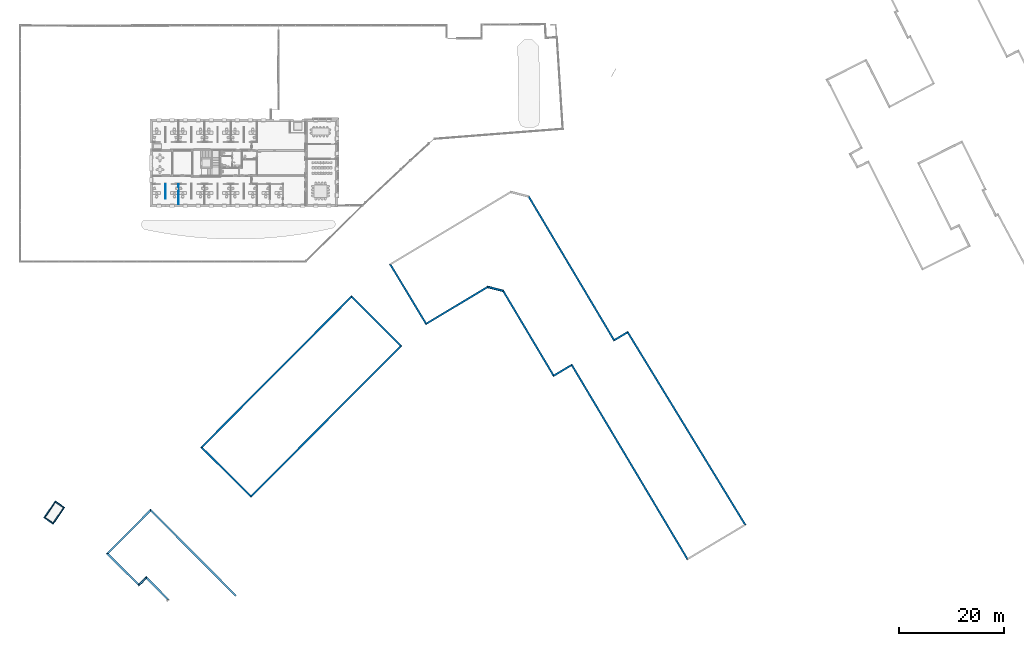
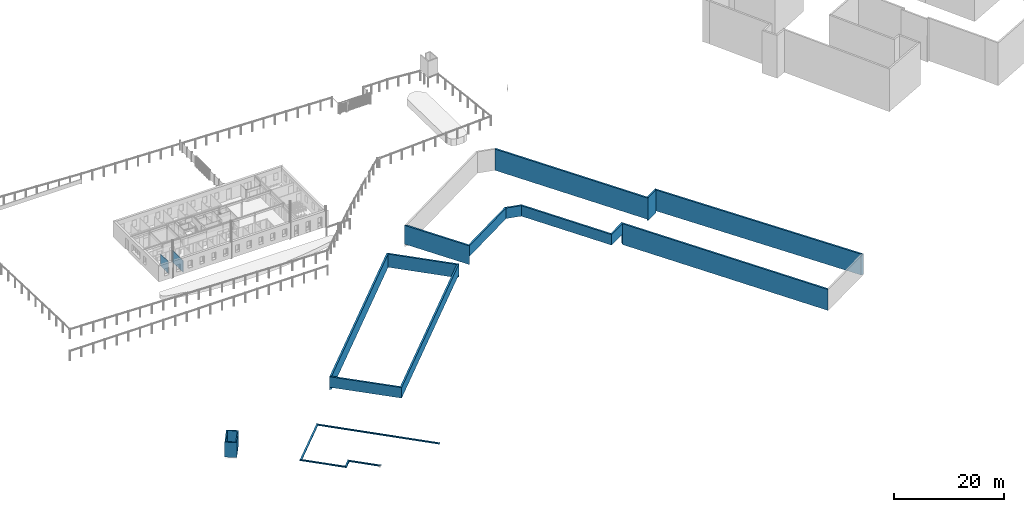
# One storey, part 12 of 91: 24 walls.
"""IFC2X3 building model written with IfcOpenShell, lengths in metres."""

from ifc_helpers import new_model, entity, si_unit, converted_unit, derived_unit, money_unit, direction, frame, origin_with_axes, place, context, subcontext, project, spatial, polyline, outline, extrude, material, layer, layer_set, layer_usage, type_object, element, save


model = new_model("IFC2X3")

# Units and contexts
model_context = context("Model", 3, precision=1e-05, world=origin_with_axes(), true_north=direction((0.0, 1.0)))
body_context = subcontext(model_context, "Body", "Model", "MODEL_VIEW")
ifc_project = project(units=[si_unit("LENGTHUNIT", "METRE"), si_unit("AREAUNIT", "SQUARE_METRE"), si_unit("VOLUMEUNIT", "CUBIC_METRE"), converted_unit("PLANEANGLEUNIT", "DEGREE", entity("IfcPlaneAngleMeasure", 0.0174532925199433), si_unit("PLANEANGLEUNIT", "RADIAN"), dimensions=[0, 0, 0, 0, 0, 0, 0]), money_unit("EUR"), converted_unit("TIMEUNIT", "Year", entity("IfcTimeMeasure", 31557600.0), si_unit("TIMEUNIT", "SECOND"), dimensions=[0, 0, 1, 0, 0, 0, 0]), si_unit("MASSUNIT", "GRAM", prefix="KILO"), si_unit("THERMODYNAMICTEMPERATUREUNIT", "DEGREE_CELSIUS"), si_unit("LUMINOUSINTENSITYUNIT", "LUMEN"), si_unit("ENERGYUNIT", "JOULE", prefix="MEGA"), derived_unit("THERMALCONDUCTANCEUNIT", [(si_unit("POWERUNIT", "WATT"), 1), (si_unit("LENGTHUNIT", "METRE"), -1), (si_unit("THERMODYNAMICTEMPERATUREUNIT", "KELVIN"), -1)]), derived_unit("SPECIFICHEATCAPACITYUNIT", [(si_unit("ENERGYUNIT", "JOULE"), 1), (si_unit("MASSUNIT", "GRAM", prefix="KILO"), -1), (si_unit("THERMODYNAMICTEMPERATUREUNIT", "KELVIN"), -1)]), derived_unit("MASSDENSITYUNIT", [(si_unit("MASSUNIT", "GRAM", prefix="KILO"), 1), (si_unit("VOLUMEUNIT", "CUBIC_METRE"), -1)])], contexts=[model_context])

# Site, building, storey
site_placement = place(None, origin_with_axes())
site = spatial("IfcSite", under=ifc_project, at=site_placement, Name="Site", CompositionType="ELEMENT")
building_placement = place(site_placement, origin_with_axes())
building = spatial("IfcBuilding", under=site, at=building_placement, Name="Bâtiment", CompositionType="ELEMENT")
storey_placement = place(building_placement, origin_with_axes())
storey = spatial("IfcBuildingStorey", under=building, at=storey_placement, Name="RDC", CompositionType="ELEMENT", Elevation=0.0)

# Walls
ifc_material_1 = material(Name="*GENERIQUE - ENDUIT EXT")
ifc_layer_1 = layer(ifc_material_1, 0.02, ventilated="UNKNOWN")
ifc_material_2 = material(Name="*GENERIQUE - MAÇONNERIE")
ifc_layer_2 = layer(ifc_material_2, 0.2, ventilated="UNKNOWN")
ifc_material_3 = material(Name="*GENERIQUE - ISOLATION INT")
ifc_layer_3 = layer(ifc_material_3, 0.12, ventilated="UNKNOWN")
ifc_material_4 = material(Name="*PLAQUE DE PLATRE - DOUBLAGE")
ifc_layer_4 = layer(ifc_material_4, 0.013, ventilated="UNKNOWN")
ifc_layer_set_1 = layer_set([ifc_layer_1, ifc_layer_2, ifc_layer_3, ifc_layer_4], Name="*Mur MITI 36")
ifc_layer_usage_1 = layer_usage(ifc_layer_set_1, "AXIS2", "POSITIVE", -0.02)
wall_type_1 = type_object("IfcWallType", Name="*Mur MITI 36 353", PredefinedType="NOTDEFINED")
wall_1_placement = place(storey_placement, frame((23.89065227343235, -98.08815635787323, 3.204798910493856), z_axis=(0.0, 0.0, 1.0), x_axis=(0.7056807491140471, -0.708529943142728, 0.0)))
element("IfcWallStandardCase", 1, at=wall_1_placement, inside=storey, type_object=wall_type_1, material=ifc_layer_usage_1, Name="MC_AGL_Ext-062", context=body_context, shape_type="SweptSolid", body=[
    extrude(outline(polyline([(0.01988009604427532, -0.02000000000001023), (5.568738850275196, -0.01999999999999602), (5.921419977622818, 0.3330000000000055), (-0.3310035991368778, 0.3330000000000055), (0.01988009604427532, -0.02000000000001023)])), origin_with_axes(), (0.0, 0.0, 1.0), 0.1352010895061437),
])
ifc_layer_usage_2 = layer_usage(ifc_layer_set_1, "AXIS2", "POSITIVE", -0.02)
wall_2_placement = place(storey_placement, frame((16.26791264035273, -93.30924011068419, 3.204798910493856), z_axis=(0.0, 0.0, 1.0), x_axis=(0.7077792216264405, -0.7064337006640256, 0.0)))
element("IfcWallStandardCase", 2, at=wall_2_placement, inside=storey, type_object=wall_type_1, material=ifc_layer_usage_2, Name="MC_AGL_Ext-062", context=body_context, shape_type="SweptSolid", body=[
    extrude(outline(polyline([(-0.01998600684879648, -0.02000000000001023), (8.77304347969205, -0.02000000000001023), (8.423199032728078, 0.3329999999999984), (0.3327670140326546, 0.3329999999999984), (-0.01998600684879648, -0.02000000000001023)])), origin_with_axes(), (0.0, 0.0, 1.0), 0.1352010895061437),
])
ifc_layer_usage_3 = layer_usage(ifc_layer_set_1, "AXIS2", "POSITIVE", -0.02)
wall_3_placement = place(storey_placement, frame((22.46326148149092, -99.49281130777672, 3.204798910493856), z_axis=(0.0, 0.0, 1.0), x_axis=(0.712760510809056, 0.7014074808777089, 0.0)))
element("IfcWallStandardCase", 3, at=wall_3_placement, inside=storey, type_object=wall_type_1, material=ifc_layer_usage_3, Name="MC_AGL_Ext-062", context=body_context, shape_type="SweptSolid", body=[
    extrude(outline(polyline([(-0.01982121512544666, -0.01999999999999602), (1.982743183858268, -0.01999999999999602), (2.333626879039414, 0.3329999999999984), (0.3300232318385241, 0.3329999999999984), (-0.01982121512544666, -0.01999999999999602)])), origin_with_axes(), (0.0, 0.0, 1.0), 0.1352010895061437),
])
ifc_layer_usage_4 = layer_usage(ifc_layer_set_1, "AXIS2", "POSITIVE", -0.02)
wall_4_placement = place(storey_placement, frame((41.05124828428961, -101.2420816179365, 3.204798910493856), z_axis=(0.0, 0.0, 1.0), x_axis=(-0.7060929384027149, 0.7081191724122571, 0.0)))
element("IfcWallStandardCase", 4, at=wall_4_placement, inside=storey, type_object=wall_type_1, material=ifc_layer_usage_4, Name="MC_AGL_Ext-064", context=body_context, shape_type="SweptSolid", body=[
    extrude(outline(polyline([(0.0, -0.01999999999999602), (23.17364681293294, -0.01999999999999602), (22.81955644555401, 0.3329999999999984), (0.0, 0.3329999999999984), (0.0, -0.01999999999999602)])), origin_with_axes(), (0.0, 0.0, 1.0), 0.1352010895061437),
])
ifc_layer_usage_5 = layer_usage(ifc_layer_set_1, "AXIS2", "POSITIVE", -0.02)
wall_5_placement = place(storey_placement, frame((70.0213957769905, -38.30799339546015, -0.8221623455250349), z_axis=(0.0, 0.0, 1.0), x_axis=(0.5158196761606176, -0.8566971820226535, 0.0)))
element("IfcWallStandardCase", 5, at=wall_5_placement, inside=storey, type_object=wall_type_1, material=ifc_layer_usage_5, Name="MC_AGL_Ext-045", context=body_context, shape_type="SweptSolid", body=[
    extrude(outline(polyline([(-0.02002691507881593, -0.02000000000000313), (13.52509505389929, -0.01999999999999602), (13.17290351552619, 0.3330000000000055), (0.3334481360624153, 0.3330000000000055), (-0.02002691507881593, -0.02000000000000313)])), origin_with_axes(), (0.0, 0.0, 1.0), 4.162162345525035),
])
ifc_layer_usage_6 = layer_usage(ifc_layer_set_1, "AXIS2", "POSITIVE", -0.02)
wall_6_placement = place(storey_placement, frame((76.98761316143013, -49.87780951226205, 1.0), z_axis=(0.0, 0.0, 1.0), x_axis=(0.8578776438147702, 0.513854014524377, 0.0)))
element("IfcWallStandardCase", 6, at=wall_6_placement, inside=storey, type_object=wall_type_1, material=ifc_layer_usage_6, Name="MC_AGL_Ext-046", context=body_context, shape_type="SweptSolid", body=[
    extrude(outline(polyline([(-0.0199541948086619, -0.02000000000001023), (13.74070327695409, -0.01999999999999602), (13.88831691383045, 0.3329999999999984), (0.332237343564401, 0.3329999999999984), (-0.0199541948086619, -0.02000000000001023)])), origin_with_axes(), (0.0, 0.0, 1.0), 2.34),
])
ifc_layer_usage_7 = layer_usage(ifc_layer_set_1, "AXIS2", "POSITIVE", -0.02)
wall_7_placement = place(storey_placement, frame((88.78263006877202, -42.81279641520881, 1.0), z_axis=(0.0, 0.0, 1.0), x_axis=(0.9682984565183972, -0.24979611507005, 0.0)))
element("IfcWallStandardCase", 7, at=wall_7_placement, inside=storey, type_object=wall_type_1, material=ifc_layer_usage_7, Name="MC_AGL_Ext-047", context=body_context, shape_type="SweptSolid", body=[
    extrude(outline(polyline([(0.00836337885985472, -0.01999999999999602), (2.876154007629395, -0.01999999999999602), (3.021637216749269, 0.3329999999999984), (-0.1392502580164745, 0.3329999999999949), (0.00836337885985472, -0.01999999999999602)])), origin_with_axes(), (0.0, 0.0, 1.0), 2.34),
])
ifc_layer_usage_8 = layer_usage(ifc_layer_set_1, "AXIS2", "POSITIVE", -0.02)
wall_8_placement = place(storey_placement, frame((91.57558692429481, -43.53330750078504, 1.0), z_axis=(0.0, 0.0, 1.0), x_axis=(0.5111150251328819, -0.8595123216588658, 0.0)))
element("IfcWallStandardCase", 8, at=wall_8_placement, inside=storey, type_object=wall_type_1, material=ifc_layer_usage_8, Name="MC_AGL_Ext-048", context=body_context, shape_type="SweptSolid", body=[
    extrude(outline(polyline([(0.008242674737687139, -0.01999999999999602), (18.87495966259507, -0.01999999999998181), (18.5217841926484, 0.3329999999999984), (-0.1372405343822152, 0.3329999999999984), (0.008242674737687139, -0.01999999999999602)])), origin_with_axes(), (0.0, 0.0, 1.0), 2.34),
])
ifc_layer_usage_9 = layer_usage(ifc_layer_set_1, "AXIS2", "POSITIVE", -0.02)
wall_9_placement = place(storey_placement, frame((101.2126350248, -59.73936911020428, 1.0), z_axis=(0.0, 0.0, 1.0), x_axis=(0.8592582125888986, 0.5115421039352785, 0.0)))
element("IfcWallStandardCase", 9, at=wall_9_placement, inside=storey, type_object=wall_type_1, material=ifc_layer_usage_9, Name="MC_AGL_Ext-049", context=body_context, shape_type="SweptSolid", body=[
    extrude(outline(polyline([(-0.02000994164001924, -0.02000000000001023), (3.993295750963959, -0.02000000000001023), (4.346201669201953, 0.3329999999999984), (0.3331655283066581, 0.3329999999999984), (-0.02000994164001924, -0.02000000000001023)])), origin_with_axes(), (0.0, 0.0, 1.0), 2.34),
])
ifc_layer_usage_10 = layer_usage(ifc_layer_set_1, "AXIS2", "POSITIVE", -0.02)
wall_10_placement = place(storey_placement, frame((104.6610877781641, -57.68640208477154, -1.312532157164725), z_axis=(0.0, 0.0, 1.0), x_axis=(0.5117711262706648, -0.8591218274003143, 0.0)))
element("IfcWallStandardCase", 10, at=wall_10_placement, inside=storey, type_object=wall_type_1, material=ifc_layer_usage_10, Name="MC_AGL_Ext-050", context=body_context, shape_type="SweptSolid", body=[
    extrude(outline(polyline([(0.01999466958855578, -0.02000000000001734), (42.96448305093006, -0.02000000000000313), (42.61161473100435, 0.3329999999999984), (-0.3329112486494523, 0.3329999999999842), (0.01999466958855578, -0.02000000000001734)])), origin_with_axes(), (0.0, 0.0, 1.0), 4.652532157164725),
])
ifc_layer_usage_11 = layer_usage(ifc_layer_set_1, "AXIS2", "POSITIVE", -0.02)
wall_11_placement = place(storey_placement, frame((137.8802158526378, -87.89024505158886, -1.312532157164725), z_axis=(0.0, 0.0, 1.0), x_axis=(-0.5209571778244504, 0.8535828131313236, 0.0)))
element("IfcWallStandardCase", 11, at=wall_11_placement, inside=storey, type_object=wall_type_1, material=ifc_layer_usage_11, Name="MC_AGL_Ext-052", context=body_context, shape_type="SweptSolid", body=[
    extrude(outline(polyline([(-0.02022324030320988, -0.01999999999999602), (43.2009027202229, -0.01999999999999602), (42.85128309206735, 0.3329999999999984), (0.3367169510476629, 0.3329999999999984), (-0.02022324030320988, -0.01999999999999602)])), origin_with_axes(), (0.0, 0.0, 1.0), 4.652532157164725),
])
ifc_layer_usage_12 = layer_usage(ifc_layer_set_1, "AXIS2", "POSITIVE", -0.02)
wall_12_placement = place(storey_placement, frame((115.3847148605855, -51.03160515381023, -1.767377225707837), z_axis=(0.0, 0.0, 1.0), x_axis=(-0.8585559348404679, -0.5127199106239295, 0.0)))
element("IfcWallStandardCase", 12, at=wall_12_placement, inside=storey, type_object=wall_type_1, material=ifc_layer_usage_12, Name="MC_AGL_Ext-053", context=body_context, shape_type="SweptSolid", body=[
    extrude(outline(polyline([(-0.01980847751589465, -0.02000000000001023), (2.978124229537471, -0.02000000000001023), (3.331863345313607, 0.3329999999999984), (0.3298111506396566, 0.3329999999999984), (-0.01980847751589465, -0.02000000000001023)])), origin_with_axes(), (0.0, 0.0, 1.0), 5.107377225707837),
])
ifc_layer_usage_13 = layer_usage(ifc_layer_set_1, "AXIS2", "POSITIVE", -0.02)
wall_13_placement = place(storey_placement, frame((112.8106215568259, -52.56882461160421, -1.384188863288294), z_axis=(0.0, 0.0, 1.0), x_axis=(-0.5109230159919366, 0.8596264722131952, 0.0)))
element("IfcWallStandardCase", 13, at=wall_13_placement, inside=storey, type_object=wall_type_1, material=ifc_layer_usage_13, Name="MC_AGL_Ext-054", context=body_context, shape_type="SweptSolid", body=[
    extrude(outline(polyline([(0.02004187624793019, -0.01999999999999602), (31.69371470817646, -0.01999999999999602), (31.54705113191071, 0.3329999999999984), (-0.3336972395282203, 0.3330000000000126), (0.02004187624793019, -0.01999999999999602)])), origin_with_axes(), (0.0, 0.0, 1.0), 4.724188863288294),
])
ifc_layer_usage_14 = layer_usage(ifc_layer_set_1, "AXIS2", "POSITIVE", -0.02)
wall_14_placement = place(storey_placement, frame((62.87352472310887, -44.27102009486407, 0.4071048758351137), z_axis=(0.0, 0.0, 1.0), x_axis=(-0.7053159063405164, -0.7088931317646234, 0.0)))
element("IfcWallStandardCase", 14, at=wall_14_placement, inside=storey, type_object=wall_type_1, material=ifc_layer_usage_14, Name="MC_AGL_Ext-057", context=body_context, shape_type="SweptSolid", body=[
    extrude(outline(polyline([(-0.01999862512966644, -0.01999999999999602), (40.73511894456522, -0.01999999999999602), (40.3812279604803, 0.3330000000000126), (0.3329771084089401, 0.3329999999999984), (-0.01999862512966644, -0.01999999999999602)])), origin_with_axes(), (0.0, 0.0, 1.0), 2.932895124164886),
])
ifc_layer_usage_15 = layer_usage(ifc_layer_set_1, "AXIS2", "POSITIVE", -0.02)
wall_15_placement = place(storey_placement, frame((34.15653930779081, -73.13365248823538, 1.0), z_axis=(0.0, 0.0, 1.0), x_axis=(0.7106688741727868, -0.7035266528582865, 0.0)))
element("IfcWallStandardCase", 15, at=wall_15_placement, inside=storey, type_object=wall_type_1, material=ifc_layer_usage_15, Name="MC_AGL_Ext-058", context=body_context, shape_type="SweptSolid", body=[
    extrude(outline(polyline([(-0.02005048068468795, -0.01999999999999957), (13.58236516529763, -0.01999999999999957), (13.23037446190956, 0.3329999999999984), (0.333840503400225, 0.333000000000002), (-0.02005048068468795, -0.01999999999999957)])), origin_with_axes(), (0.0, 0.0, 1.0), 2.34),
])
ifc_layer_usage_16 = layer_usage(ifc_layer_set_1, "AXIS2", "POSITIVE", -0.02)
wall_16_placement = place(storey_placement, frame((43.79493072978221, -82.67517808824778, 1.0), z_axis=(0.0, 0.0, 1.0), x_axis=(0.7055586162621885, 0.7086515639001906, 0.0)))
element("IfcWallStandardCase", 16, at=wall_16_placement, inside=storey, type_object=wall_type_1, material=ifc_layer_usage_16, Name="MC_AGL_Ext-059", context=body_context, shape_type="SweptSolid", body=[
    extrude(outline(polyline([(-0.01994281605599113, -0.02000000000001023), (40.70182357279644, -0.01999999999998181), (40.34867839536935, 0.3329999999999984), (0.3320478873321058, 0.3329999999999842), (-0.01994281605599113, -0.02000000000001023)])), origin_with_axes(), (0.0, 0.0, 1.0), 2.34),
])
ifc_layer_usage_17 = layer_usage(ifc_layer_set_1, "AXIS2", "POSITIVE", -0.02)
wall_17_placement = place(storey_placement, frame((72.4983360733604, -53.84594601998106, 0.4071048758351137), z_axis=(0.0, 0.0, 1.0), x_axis=(-0.7089416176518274, 0.7052671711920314, 0.0)))
element("IfcWallStandardCase", 17, at=wall_17_placement, inside=storey, type_object=wall_type_1, material=ifc_layer_usage_17, Name="MC_AGL_Ext-060", context=body_context, shape_type="SweptSolid", body=[
    extrude(outline(polyline([(-0.0200082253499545, -0.01999999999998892), (13.59630887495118, -0.01999999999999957), (13.24333314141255, 0.3329999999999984), (0.3331369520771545, 0.3329999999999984), (-0.0200082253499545, -0.01999999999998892)])), origin_with_axes(), (0.0, 0.0, 1.0), 2.932895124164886),
])
ifc_layer_usage_18 = layer_usage(ifc_layer_set_1, "AXIS2", "POSITIVE", -0.02)
wall_18_placement = place(storey_placement, frame((24.70266539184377, -84.84658414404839, 3.204798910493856), z_axis=(0.0, 0.0, 1.0), x_axis=(-0.7059381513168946, -0.7082734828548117, 0.0)))
element("IfcWallStandardCase", 18, at=wall_18_placement, inside=storey, type_object=wall_type_1, material=ifc_layer_usage_18, Name="MC_AGL_Ext-061", context=body_context, shape_type="SweptSolid", body=[
    extrude(outline(polyline([(-0.02006177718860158, -0.01999999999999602), (11.96827458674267, -0.01999999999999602), (11.61552156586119, 0.3330000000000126), (0.3340285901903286, 0.3330000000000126), (-0.02006177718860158, -0.01999999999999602)])), origin_with_axes(), (0.0, 0.0, 1.0), 0.1352010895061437),
])
ifc_layer_5 = layer(ifc_material_1, 0.02, ventilated="UNKNOWN")
ifc_layer_6 = layer(ifc_material_2, 0.2, ventilated="UNKNOWN")
ifc_layer_set_2 = layer_set([ifc_layer_5, ifc_layer_6], Name="*Mur ENDUIT 1 face")
ifc_layer_usage_19 = layer_usage(ifc_layer_set_2, "AXIS2", "POSITIVE", -0.02)
wall_type_2 = type_object("IfcWallType", Name="*Mur ENDUIT 1 face 220", PredefinedType="NOTDEFINED")
wall_19_placement = place(storey_placement, frame((4.411771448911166, -86.49771195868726, 4.0), z_axis=(0.0, 0.0, 1.0), x_axis=(0.8218101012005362, -0.5697614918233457, 0.0)))
element("IfcWallStandardCase", 19, at=wall_19_placement, inside=storey, type_object=wall_type_2, material=ifc_layer_usage_19, Name="MC_AGL_Ext-052", context=body_context, shape_type="SweptSolid", body=[
    extrude(outline(polyline([(-0.01980389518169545, -0.01999999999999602), (2.205646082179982, -0.01999999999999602), (1.984265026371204, 0.1999999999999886), (0.1980389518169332, 0.1999999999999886), (-0.01980389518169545, -0.01999999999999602)])), origin_with_axes(), (0.0, 0.0, 1.0), 3.34),
])
ifc_layer_usage_20 = layer_usage(ifc_layer_set_2, "AXIS2", "POSITIVE", -0.02)
wall_20_placement = place(storey_placement, frame((6.20785429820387, -87.7429373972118, 4.0), z_axis=(0.0, 0.0, 1.0), x_axis=(0.5646075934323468, 0.825359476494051, 0.0)))
element("IfcWallStandardCase", 20, at=wall_20_placement, inside=storey, type_object=wall_type_2, material=ifc_layer_usage_20, Name="MC_AGL_Ext-053", context=body_context, shape_type="SweptSolid", body=[
    extrude(outline(polyline([(-0.02012555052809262, -0.02000000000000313), (3.902544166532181, -0.02000000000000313), (3.682474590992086, 0.1999999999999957), (0.201255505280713, 0.2000000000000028), (-0.02012555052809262, -0.02000000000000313)])), origin_with_axes(), (0.0, 0.0, 1.0), 3.34),
])
ifc_layer_usage_21 = layer_usage(ifc_layer_set_2, "AXIS2", "POSITIVE", -0.02)
wall_21_placement = place(storey_placement, frame((6.584287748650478, -83.29723184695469, 4.0), z_axis=(0.0, 0.0, 1.0), x_axis=(-0.5616362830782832, -0.827384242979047, 0.0)))
element("IfcWallStandardCase", 21, at=wall_21_placement, inside=storey, type_object=wall_type_2, material=ifc_layer_usage_21, Name="MC_AGL_Ext-051", context=body_context, shape_type="SweptSolid", body=[
    extrude(outline(polyline([(-0.02006569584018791, -0.02000000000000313), (3.887994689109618, -0.02000000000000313), (3.670151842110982, 0.2000000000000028), (0.2006569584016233, 0.2000000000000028), (-0.02006569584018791, -0.02000000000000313)])), origin_with_axes(), (0.0, 0.0, 1.0), 3.34),
])
ifc_layer_usage_22 = layer_usage(ifc_layer_set_2, "AXIS2", "POSITIVE", -0.02)
wall_22_placement = place(storey_placement, frame((8.399964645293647, -84.53844799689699, 4.0), z_axis=(0.0, 0.0, 1.0), x_axis=(-0.8255379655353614, 0.5643465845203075, 0.0)))
element("IfcWallStandardCase", 22, at=wall_22_placement, inside=storey, type_object=wall_type_2, material=ifc_layer_usage_22, Name="MC_AGL_Ext-054", context=body_context, shape_type="SweptSolid", body=[
    extrude(outline(polyline([(-0.02000632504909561, -0.01999999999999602), (2.219452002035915, -0.01999999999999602), (1.998729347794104, 0.2000000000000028), (0.2000632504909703, 0.2000000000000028), (-0.02000632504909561, -0.01999999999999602)])), origin_with_axes(), (0.0, 0.0, 1.0), 3.34),
])
ifc_material_5 = material(Name="*PLAQUE DE PLATRE - CLOISON")
ifc_layer_7 = layer(ifc_material_5, 0.08, ventilated="UNKNOWN")
ifc_layer_set_3 = layer_set([ifc_layer_7], Name="*PLAQUE DE PLATRE - CLOISON 0.08")
ifc_layer_usage_23 = layer_usage(ifc_layer_set_3, "AXIS2", "NEGATIVE", 0.0)
wall_type_3 = type_object("IfcWallType", Name="*PLAQUE DE PLATRE - CLOISON 80", PredefinedType="NOTDEFINED")
wall_23_placement = place(storey_placement, frame((30.06299999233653, -23.11056215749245, 0.0), z_axis=(0.0, 0.0, 1.0), x_axis=(0.0, -1.0, 0.0)))
element("IfcWallStandardCase", 23, at=wall_23_placement, inside=storey, type_object=wall_type_3, material=ifc_layer_usage_23, Name="Cloison modulaire", context=body_context, shape_type="SweptSolid", body=[
    extrude(outline(polyline([(0.0, -0.0799999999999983), (3.846999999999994, -0.0799999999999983), (3.846999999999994, 0.0), (0.0, 0.0), (0.0, -0.0799999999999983)])), origin_with_axes(), (0.0, 0.0, 1.0), 2.6),
])
ifc_layer_usage_24 = layer_usage(ifc_layer_set_3, "AXIS2", "NEGATIVE", 0.0)
wall_24_placement = place(storey_placement, frame((27.58299999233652, -23.11056215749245, 0.0), z_axis=(0.0, 0.0, 1.0), x_axis=(0.0, -1.0, 0.0)))
element("IfcWallStandardCase", 24, at=wall_24_placement, inside=storey, type_object=wall_type_3, material=ifc_layer_usage_24, Name="Cloison modulaire", context=body_context, shape_type="SweptSolid", body=[
    extrude(outline(polyline([(0.0, -0.0799999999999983), (2.796999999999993, -0.0799999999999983), (2.796999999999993, 0.0), (0.0, 0.0), (0.0, -0.0799999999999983)])), origin_with_axes(), (0.0, 0.0, 1.0), 2.6),
])

save(model, "model.ifc")
